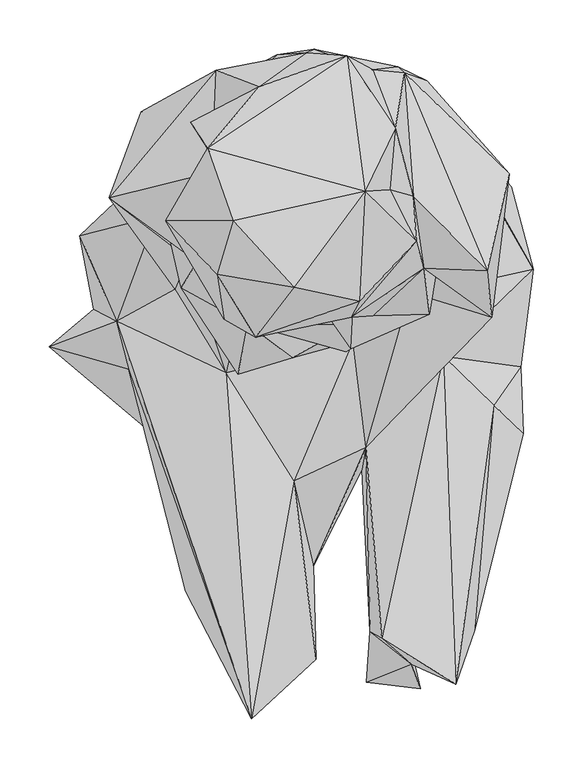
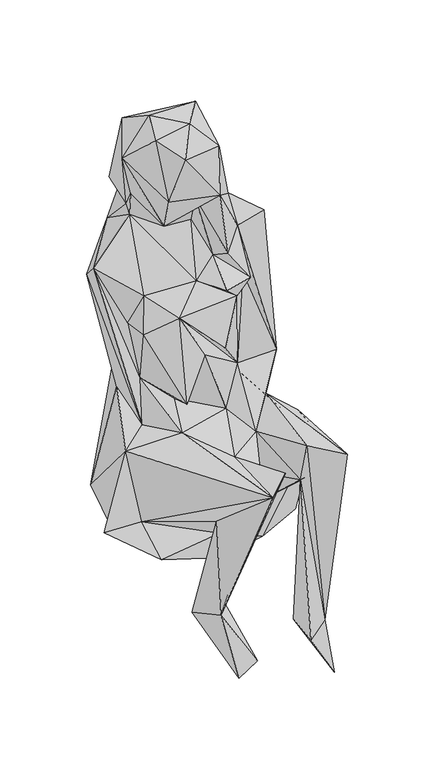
"""IFC4 building model written with IfcOpenShell, lengths in millimetres: geographic element geometry, Enscape AssetDefinition - Maja sentada : Enscape AssetDefinition - Maja sentada."""

from ifc_helpers import new_model, si_unit, origin, place, context, project, spatial, faceted_brep, source, transform, mapped, element, save


def geographic_element_5d30c309(model_context):
    return source(origin(), model_context, "Body", "Brep", [
        faceted_brep([(47.6840548, -12.7645442, 804.8539758), (2.6431936, -40.2048938, 696.9434619), (68.1378916, 20.4709247, 598.9271402), (-97.3668396, -12.2819534, 795.3659892), (-33.6677916, 22.7401126, 851.4983654), (95.5852792, 44.7553284, 812.7061129), (7.9516992, -36.7754772, 846.5689421), (87.8366679, -2.01683, 833.6676359), (151.2552202, -4.9445517, 621.2530136), (82.224533, 45.0197496, 944.2032576), (30.3258449, -3.5973173, 918.4007049), (11.2222619, 28.9333686, 901.3381004), (-36.6568416, 23.3232416, 1070.6361532), (-11.9431335, 84.556058, 970.2410102), (8.5147228, -5.0853076, 1080.657959), (-124.6211976, 7.2026779, 1038.0209684), (-133.4998757, 142.6288933, 990.3993607), (-181.0069829, 93.0567011, 1185.7261658), (-147.3552734, 114.4385114, 1068.796277), (-121.2189272, -6.8568201, 1109.2725992), (-133.1771463, 158.4337652, 1010.3937387), (-128.2647699, 38.9481448, 1247.3652363), (-138.1709576, 166.9243574, 1233.4463596), (-112.1492311, 93.1180269, 1276.6544819), (-89.1557485, -25.5431645, 1220.4073668), (-50.238777, 25.6788917, 1272.441864), (21.9297595, 123.2860237, 1248.0418682), (16.3337085, 11.2514179, 1199.4036436), (74.2396563, 72.1122324, 1016.8282986), (3.8858666, 260.8306408, 1004.3542385), (53.0498698, 187.3611063, 1051.5828133), (47.5473218, 124.7579306, 1090.8244848), (71.6215968, 118.1192845, 1005.0047636), (62.2824468, 243.7700033, 888.8098001), (30.087566, 246.9259501, 935.5176091), (146.4564502, 42.141296, 965.0914073), (168.8989699, 140.8302337, 877.4216771), (84.9541947, 235.4412824, 781.3225985), (55.4366857, 249.6888041, 797.2008586), (-29.8311915, 267.6824331, 823.5764503), (-37.3566002, 263.8970912, 928.5461903), (42.3041657, 233.0102324, 734.3815565), (111.8083969, 179.055512, 745.3916669), (59.7850382, 202.7758658, 710.005641), (-26.0760244, 260.0534558, 712.2406363), (100.9339988, 134.9305511, 622.5791574), (14.8175675, 211.900875, 599.3162394), (109.8156944, 65.562062, 610.9959483), (153.6872685, 113.3124754, 464.518398), (-51.6523644, 231.7172885, 457.0120871), (103.6636606, 204.2156011, 434.0196252), (193.7474012, 43.7589772, 417.956382), (78.3738568, 18.527491, 567.3204064), (171.0756421, 127.7077794, 311.5298748), (-21.1968236, 244.962424, 359.0369821), (-141.3198709, 198.0565488, 577.861011), (-268.0795491, 78.3004612, 357.7440083), (-170.7116961, -34.6993282, 305.3899109), (104.5825928, -74.7061595, 318.4148371), (180.7878166, -55.4497577, 404.4377804), (101.840876, -44.5140302, 545.1111794), (23.2357737, -137.0298266, 528.9162397), (-51.885616, -46.2352782, 702.9306889), (9.9373618, -29.1756708, 528.4647942), (-107.3092371, -63.0716905, 601.2526155), (-106.3601449, -5.0591668, 581.1024308), (-148.9025801, 51.4221303, 834.5826268), (-165.2362943, 25.1319557, 753.1000376), (-157.9330713, 54.7248647, 618.0619001), (-119.0804467, -61.3283217, 528.1973481), (-50.2880402, -171.1440086, 506.4978004), (-230.8797985, -9.1762757, 486.0751629), (-93.1160152, -413.2742286, 560.128808), (-170.9348857, 23.6590449, 516.7579055), (-27.5137443, -352.8347015, 565.6484365), (-30.1318038, -257.8596473, 459.2018425), (-218.2368934, -57.8446165, 324.202925), (-128.2567233, -246.8555719, 159.0410322), (-160.4586393, -283.5667133, 442.0758784), (-135.0411475, -133.306846, 100.4242599), (-104.4358015, -285.2055132, 6.6195461), (-57.7621758, -283.7557197, 35.6504358), (-87.5441059, -194.2581534, 142.7334547), (-86.5276456, -240.2048707, 423.5222638), (-63.1360263, -128.6317259, 282.9272747), (-52.3983724, -132.6241791, 390.9302354), (40.9277752, -167.5316244, 368.8999116), (19.1759728, -160.1489782, 434.1634214), (183.2701266, -122.8657737, 467.9699242), (133.8326633, -322.6807415, 526.5313983), (27.3920912, -324.8735368, 512.0747685), (23.7766784, -376.1086762, 117.9172024), (49.2575057, -255.5955052, 91.3143456), (69.5565119, -357.9973876, 145.5616504), (39.3241644, -331.651926, 602.0197868), (114.6586984, -378.0390024, 581.5910697), (78.3255994, -382.6668561, 17.9011263), (153.1684995, -94.6110487, 514.8848891), (110.074088, -159.817189, 306.3601255), (46.7902571, -125.7402152, 234.4187945), (-64.9738982, -137.3857409, 223.0517566), (-202.6863992, -116.0099581, 253.7365258), (-299.4148135, -34.9124745, 309.7221851), (-254.1587949, 3.0885853, 273.9269435), (-191.14241, 98.0635881, 579.3309212), (-122.3117933, 192.8103566, 682.8024983), (-205.5930048, 204.242751, 818.4660077), (-59.5950149, 242.594704, 714.6696448), (-124.8444021, 232.0309877, 806.832552), (-67.2430843, 261.8923187, 802.7627468), (-99.1202593, 233.5320413, 868.9309955), (-129.652217, 246.2633997, 917.4817801), (-85.9233961, 229.2430103, 1070.0701475), (-238.5007143, 116.3990498, 899.3142247), (-155.2275419, 193.2085007, 1067.1151876), (-176.5128374, 75.6944716, 757.5951815)], [[[0, 1, 2]], [[1, 0, 3]], [[1, 3, 2]], [[4, 3, 0]], [[0, 2, 5]], [[6, 0, 7]], [[5, 7, 0]], [[6, 4, 0]], [[2, 8, 5]], [[5, 9, 7]], [[9, 5, 8]], [[9, 10, 7]], [[7, 11, 6]], [[7, 10, 11]], [[11, 4, 6]], [[12, 13, 11]], [[11, 13, 4]], [[12, 11, 10]], [[9, 14, 10]], [[10, 14, 12]], [[13, 12, 15]], [[12, 14, 15]], [[16, 13, 15]], [[13, 16, 4]], [[17, 18, 15]], [[15, 14, 19]], [[17, 15, 19]], [[15, 18, 16]], [[17, 20, 18]], [[18, 20, 16]], [[19, 21, 17]], [[20, 17, 22]], [[17, 21, 23]], [[23, 22, 17]], [[19, 14, 24]], [[24, 21, 19]], [[25, 23, 21]], [[21, 24, 25]], [[23, 25, 26]], [[22, 23, 26]], [[25, 24, 27]], [[25, 27, 26]], [[14, 27, 24]], [[14, 28, 27]], [[28, 26, 27]], [[22, 26, 29]], [[29, 26, 30]], [[31, 26, 28]], [[26, 31, 30]], [[14, 9, 28]], [[28, 9, 32]], [[28, 32, 31]], [[31, 32, 30]], [[30, 32, 33]], [[30, 34, 29]], [[33, 34, 30]], [[35, 33, 32]], [[35, 32, 9]], [[8, 35, 9]], [[33, 35, 36]], [[35, 8, 36]], [[33, 36, 37]], [[33, 38, 34]], [[37, 38, 33]], [[34, 38, 39]], [[40, 34, 39]], [[29, 34, 40]], [[41, 39, 38]], [[38, 37, 41]], [[37, 42, 43]], [[42, 37, 36]], [[37, 43, 41]], [[44, 39, 41]], [[44, 41, 43]], [[43, 42, 45]], [[44, 43, 46]], [[46, 43, 45]], [[45, 42, 47]], [[36, 47, 42]], [[45, 47, 48]], [[49, 45, 50]], [[46, 45, 49]], [[45, 48, 50]], [[51, 48, 52]], [[50, 48, 51]], [[52, 48, 47]], [[50, 53, 54]], [[50, 51, 53]], [[50, 54, 49]], [[55, 46, 49]], [[55, 49, 54]], [[54, 56, 55]], [[57, 54, 53]], [[57, 56, 54]], [[58, 57, 53]], [[53, 51, 59]], [[58, 53, 59]], [[51, 60, 59]], [[52, 60, 51]], [[52, 47, 60]], [[47, 36, 8]], [[60, 47, 8]], [[2, 61, 8]], [[8, 61, 60]], [[3, 62, 2]], [[2, 63, 61]], [[63, 2, 62]], [[64, 65, 62]], [[3, 64, 62]], [[65, 63, 62]], [[66, 3, 4]], [[3, 66, 67]], [[67, 64, 3]], [[64, 68, 65]], [[67, 68, 64]], [[68, 69, 65]], [[63, 65, 69]], [[70, 63, 69]], [[70, 61, 63]], [[69, 71, 72]], [[72, 70, 69]], [[73, 69, 68]], [[71, 69, 73]], [[70, 72, 74]], [[74, 75, 70]], [[61, 70, 75]], [[71, 76, 72]], [[77, 72, 78]], [[78, 72, 76]], [[72, 77, 74]], [[74, 77, 75]], [[79, 80, 77]], [[78, 79, 77]], [[77, 80, 81]], [[82, 75, 77]], [[82, 77, 81]], [[83, 79, 78]], [[83, 78, 76]], [[81, 80, 79]], [[82, 81, 79]], [[82, 79, 83]], [[82, 83, 75]], [[84, 83, 76]], [[85, 83, 84]], [[83, 85, 75]], [[85, 84, 86]], [[85, 87, 75]], [[85, 86, 87]], [[86, 88, 89]], [[88, 86, 84]], [[86, 89, 90]], [[87, 86, 90]], [[61, 75, 87]], [[61, 87, 90]], [[91, 90, 92]], [[90, 89, 92]], [[93, 90, 91]], [[94, 90, 93]], [[61, 90, 94]], [[60, 61, 94]], [[60, 94, 95]], [[94, 93, 95]], [[92, 89, 93]], [[93, 89, 95]], [[96, 92, 93]], [[93, 91, 96]], [[91, 92, 96]], [[97, 60, 95]], [[89, 97, 95]], [[97, 59, 60]], [[97, 88, 59]], [[88, 97, 89]], [[98, 59, 88]], [[58, 59, 99]], [[99, 59, 98]], [[99, 88, 84]], [[98, 88, 99]], [[84, 100, 99]], [[58, 99, 100]], [[58, 100, 57]], [[101, 100, 84]], [[100, 101, 57]], [[76, 101, 84]], [[57, 101, 102]], [[101, 76, 102]], [[103, 56, 57]], [[103, 57, 102]], [[76, 71, 102]], [[103, 102, 71]], [[56, 103, 71]], [[56, 104, 55]], [[104, 56, 71]], [[73, 104, 71]], [[105, 104, 106]], [[73, 106, 104]], [[105, 55, 104]], [[105, 46, 55]], [[105, 107, 46]], [[108, 107, 105]], [[108, 105, 106]], [[44, 46, 107]], [[108, 109, 107]], [[109, 39, 107]], [[39, 44, 107]], [[109, 108, 110]], [[108, 106, 110]], [[40, 109, 110]], [[109, 40, 39]], [[40, 110, 111]], [[110, 106, 111]], [[40, 111, 112]], [[29, 40, 112]], [[20, 112, 111]], [[113, 111, 106]], [[113, 16, 111]], [[111, 16, 20]], [[112, 22, 29]], [[22, 112, 114]], [[20, 114, 112]], [[114, 20, 22]], [[16, 66, 4]], [[66, 16, 113]], [[66, 115, 67]], [[115, 66, 113]], [[113, 68, 115]], [[67, 115, 68]], [[113, 73, 68]], [[73, 113, 106]]]),
    ])


if __name__ == "__main__":
    model = new_model("IFC4")
    model_context = context("Model", 3, world=origin())
    ifc_project = project(units=[si_unit("LENGTHUNIT", "METRE", prefix="MILLI")], contexts=[model_context])
    site = spatial("IfcSite", under=ifc_project)
    building = spatial("IfcBuilding", under=site)
    placement = place(None, origin())
    geographic_element_shape = geographic_element_5d30c309(model_context)
    element("IfcGeographicElement", 1, ObjectType="Enscape AssetDefinition - Maja sentada : Enscape AssetDefinition - Maja sentada", at=placement, inside=building, context=model_context, shape_type="MappedRepresentation", body=[
        mapped(geographic_element_shape, transform((0.0, 0.0, 0.0), x_axis=(1.0, 0.0, 0.0), y_axis=(0.0, 1.0, 0.0), z_axis=(0.0, 0.0, 1.0))),
    ])
    save(model, "model.ifc")
